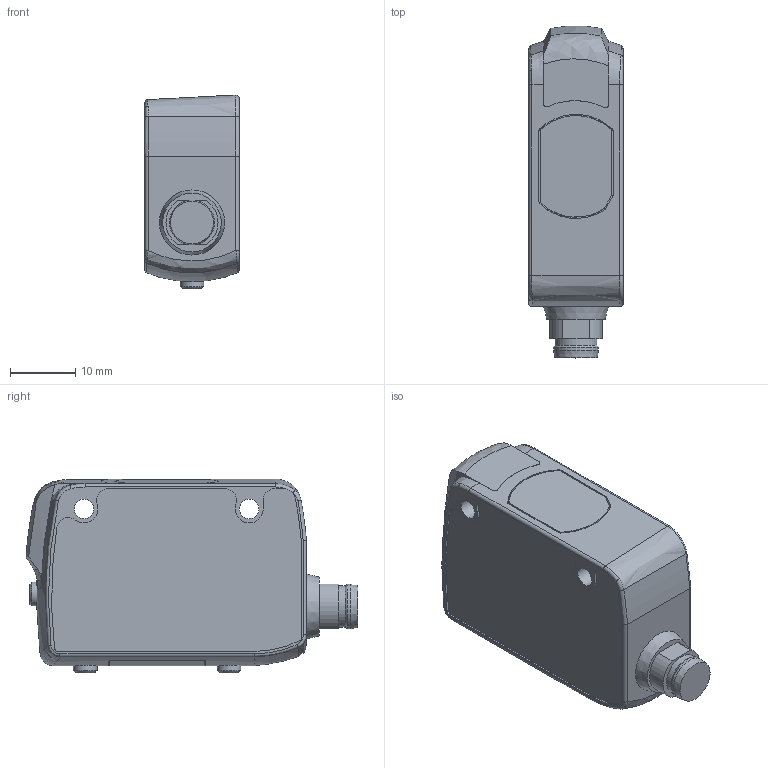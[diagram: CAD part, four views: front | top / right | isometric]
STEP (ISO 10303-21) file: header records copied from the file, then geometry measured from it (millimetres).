
FILE_DESCRIPTION((''),'2;1');
FILE_NAME('C:\Program Files\Autodesk\Inventor 2011\Tutorial Files\Imported Components\LR-ZH500C\LR-ZH500C.stp','2016-08-05T20:34:01',(''),(''),'Autodesk Inventor 2011','Autodesk Inventor 2011','');
FILE_SCHEMA(('CONFIG_CONTROL_DESIGN'));
Length unit declared in the file: millimetre
Products named in the file (1): LR-ZH500C
Bounding box: 14.5 x 51.01 x 29.77 mm (x, y, z)
Volume: 15983.3 mm3; surface area: 4647.3 mm2
Topology: 1 solids, 1 shells, 157 faces, 421 edges, 277 vertices
Faces by surface type: cylinder 69, plane 48, bspline 34, cone 6
Full cylindrical faces by diameter (mm): 3 x2, 3.64 x3, 6.45 x1, 6.9 x1
Entity records: 9827 total; most frequent: CARTESIAN_POINT 6166, ORIENTED_EDGE 806, DIRECTION 662, EDGE_CURVE 403, VERTEX_POINT 272, AXIS2_PLACEMENT_3D 254, EDGE_LOOP 185, FACE_OUTER_BOUND 157
